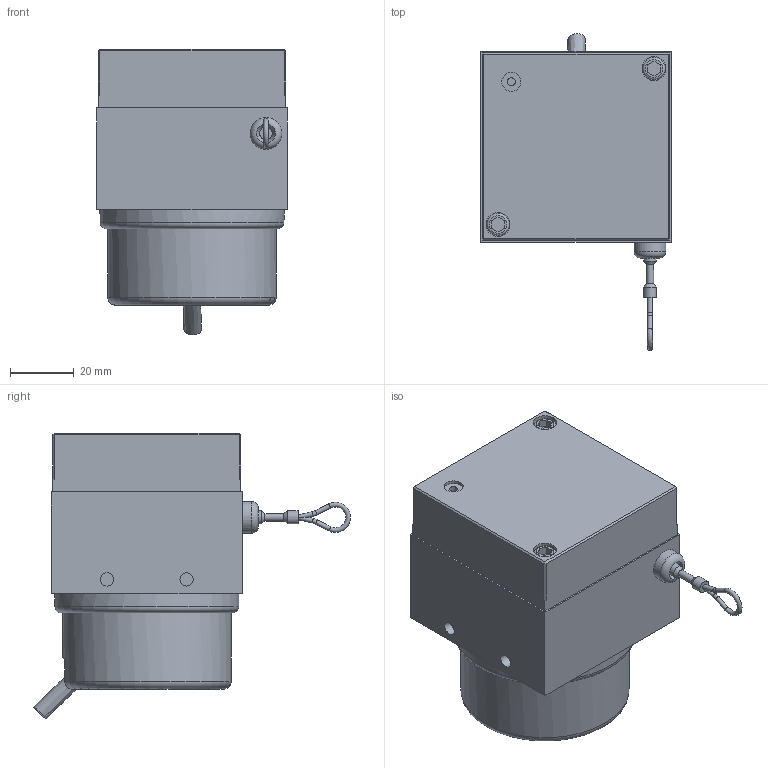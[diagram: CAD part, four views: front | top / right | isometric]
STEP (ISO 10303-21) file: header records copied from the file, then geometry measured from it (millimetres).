
FILE_DESCRIPTION( ( 'Unknown' ), '1' );
FILE_NAME( 'C:/Users/malfermoa/Desktop/step/FE_1500_EH30.stp', 'Unknown', ( 'Unknown' ), ( 'Unknown' ), 'PSStep 15.0.49', 'Unknown', ' ' );
FILE_SCHEMA( ( 'AUTOMOTIVE_DESIGN { 1 0 10303 214 1 1 1 1 }' ) );
Length unit declared in the file: millimetre
Products named in the file (1): cappio FE
Bounding box: 60 x 99.64 x 89.87 mm (x, y, z)
Volume: 107881.4 mm3; surface area: 56916.8 mm2
Topology: 1 solids, 6 shells, 351 faces, 815 edges, 538 vertices
Faces by surface type: plane 188, cylinder 121, torus 20, cone 15, bspline 7
Full cylindrical faces by diameter (mm): 1.5 x4, 2.05 x2, 2.353 x1, 2.5 x10, 2.733 x1, 3 x2, 3.3 x2, 3.4 x4, 3.5 x2, 4 x4, 4.2 x4, 4.5 x4, 4.9 x1, 5 x8, 6 x9, 7 x4, 7.5 x2, 8 x1, 9 x2, 10 x1, 11 x3, 24 x1, 34 x1, 49 x1, 53 x1, 54 x1, 58 x1
Entity records: 15197 total; most frequent: CARTESIAN_POINT 5096, DIRECTION 1524, ORIENTED_EDGE 1292, EDGE_CURVE 646, AXIS2_PLACEMENT_3D 612, EDGE_LOOP 536, VERTEX_POINT 481, FACE_OUTER_BOUND 447
